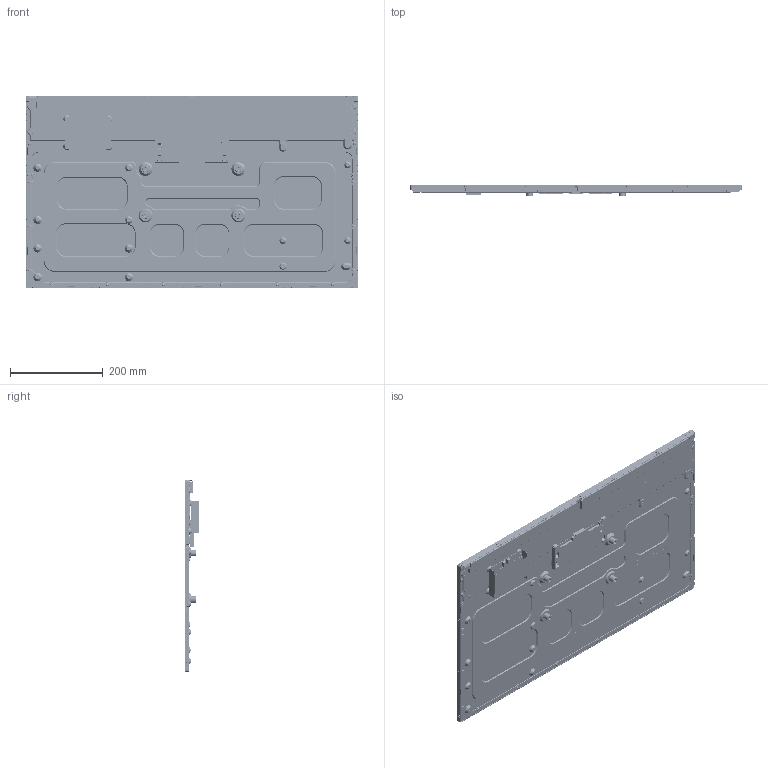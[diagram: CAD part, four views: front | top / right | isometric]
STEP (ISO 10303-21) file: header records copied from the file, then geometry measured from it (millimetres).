
FILE_DESCRIPTION((''),'2;1');
FILE_NAME('00_ASSY_MODULE_P320HVN06V1_2_ASM','2022-03-23T15:45:27',('CoveyLee'),(''),'CREO PARAMETRIC BY PTC INC, 2018420','CREO PARAMETRIC BY PTC INC, 2018420','');
FILE_SCHEMA(('CONFIG_CONTROL_DESIGN','SHAPE_APPEARANCE_LAYERS_GROUPS'));
Products named in the file (5): PRT0001; 32_AUO_LCM_20210721_ASM_1_ASM; M25_1_1; TAPE; 00_ASSY_MODULE_P320HVN06V1_2_ASM
Assembly tree (15 placements, depth 3):
  00_ASSY_MODULE_P320HVN06V1_2_ASM
    32_AUO_LCM_20210721_ASM_1_ASM
      PRT0001
    M25_1_1  x12
    TAPE
Bounding box: 716.2 x 32.15 x 415.25 mm (x, y, z)
Surface area: 3329606.5 mm2
Topology: 13 solids, 77 shells, 11814 faces, 32472 edges, 21319 vertices
Faces by surface type: plane 8559, cylinder 1903, cone 1089, torus 160, bspline 71, sphere 32
Entity records: 372157 total; most frequent: CARTESIAN_POINT 73774, ORIENTED_EDGE 63552, DIRECTION 59082, EDGE_CURVE 31921, VECTOR 24702, LINE 24702, VERTEX_POINT 20967, AXIS2_PLACEMENT_3D 17190
